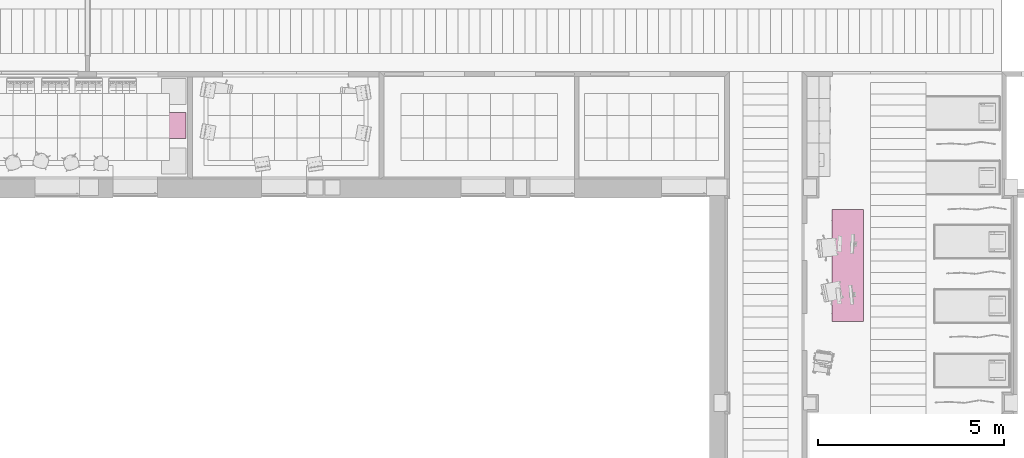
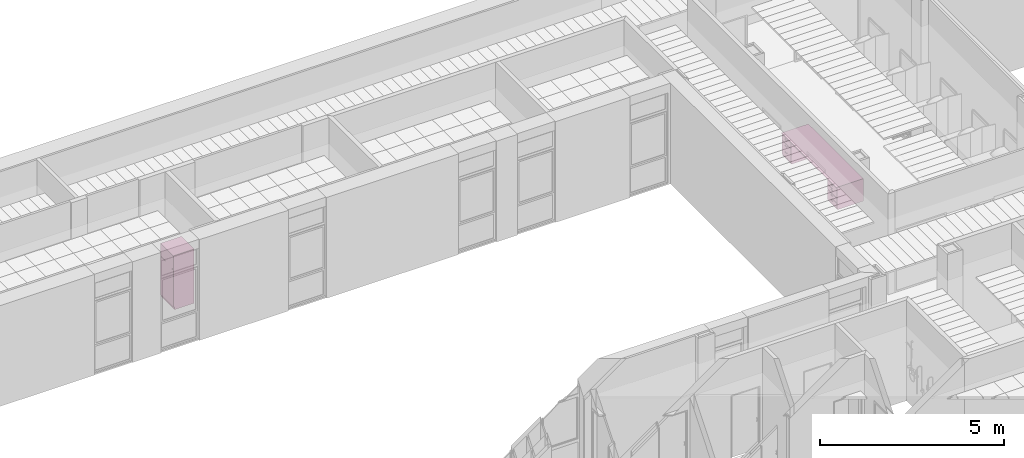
# One storey, part 65 of 68: 2 furnishings.
"""IFC2X3 building model written with IfcOpenShell, lengths in millimetres."""

from ifc_helpers import new_model, entity, si_unit, converted_unit, derived_unit, money_unit, direction, frame, origin_with_axes, place, context, subcontext, project, spatial, open_shell, faceted_brep, surface_model, type_object, element, save


model = new_model("IFC2X3")

# Units and contexts
model_context = context("Model", 3, precision=0.01, world=origin_with_axes(), true_north=direction((0.0, 1.0)))
body_context = subcontext(model_context, "Body", "Model", "MODEL_VIEW")
ifc_project = project(units=[si_unit("LENGTHUNIT", "METRE", prefix="MILLI"), si_unit("AREAUNIT", "SQUARE_METRE"), si_unit("VOLUMEUNIT", "CUBIC_METRE"), converted_unit("PLANEANGLEUNIT", "DEGREE", entity("IfcPlaneAngleMeasure", 0.0174532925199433), si_unit("PLANEANGLEUNIT", "RADIAN"), dimensions=[0, 0, 0, 0, 0, 0, 0]), money_unit("USD"), converted_unit("TIMEUNIT", "Year", entity("IfcTimeMeasure", 31557600.0), si_unit("TIMEUNIT", "SECOND"), dimensions=[0, 0, 1, 0, 0, 0, 0]), si_unit("MASSUNIT", "GRAM", prefix="KILO"), si_unit("THERMODYNAMICTEMPERATUREUNIT", "DEGREE_CELSIUS"), si_unit("LUMINOUSINTENSITYUNIT", "LUMEN"), si_unit("ENERGYUNIT", "JOULE", prefix="MEGA"), derived_unit("THERMALCONDUCTANCEUNIT", [(si_unit("POWERUNIT", "WATT"), 1), (si_unit("LENGTHUNIT", "METRE"), -1), (si_unit("THERMODYNAMICTEMPERATUREUNIT", "KELVIN"), -1)]), derived_unit("SPECIFICHEATCAPACITYUNIT", [(si_unit("ENERGYUNIT", "JOULE"), 1), (si_unit("MASSUNIT", "GRAM", prefix="KILO"), -1), (si_unit("THERMODYNAMICTEMPERATUREUNIT", "KELVIN"), -1)]), derived_unit("MASSDENSITYUNIT", [(si_unit("MASSUNIT", "GRAM", prefix="KILO"), 1), (si_unit("VOLUMEUNIT", "CUBIC_METRE"), -1)])], contexts=[model_context])

# Site, building, storey
site_placement = place(None, origin_with_axes())
site = spatial("IfcSite", under=ifc_project, at=site_placement, Name="Sitio", CompositionType="ELEMENT")
building_placement = place(site_placement, origin_with_axes())
building = spatial("IfcBuilding", under=site, at=building_placement, Name="Construcción", CompositionType="ELEMENT")
storey_placement = place(building_placement, origin_with_axes())
storey = spatial("IfcBuildingStorey", under=building, at=storey_placement, Name="PLANTA 1ª", CompositionType="ELEMENT", Elevation=0.0)

# Furnishings
furnishing_element_type_1 = type_object("IfcFurnishingElementType", Name="Mesa Oficina Rect 27")
furnishing_1_placement = place(storey_placement, frame((2040.743527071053, -2014.850095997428, 0.0), z_axis=(0.0, 0.0, 1.0), x_axis=(0.0, 1.0, 0.0)))
element("IfcFurnishingElement", 1, at=furnishing_1_placement, inside=storey, type_object=furnishing_element_type_1, Name="60.20.51 Armari", context=body_context, shape_type="Brep", body=[
    faceted_brep([(0.0, 0.0, 725.0), (0.0, 0.0, 750.0), (-3000.0, 0.0, 750.0), (-3000.0, 0.0, 725.0), (0.0, 850.0, 725.0), (0.0, 850.0, 750.0), (-3000.0, 850.0, 750.0), (-3000.0, 850.0, 725.0)], [[[0, 1, 2, 3]], [[4, 5, 1, 0]], [[1, 5, 6, 2]], [[3, 2, 6, 7]], [[0, 3, 7, 4]], [[7, 6, 5, 4]]]),
    faceted_brep([(-500.0, 80.0, 125.0), (-500.0, 80.0, 725.0), (-2500.0, 80.0, 725.0), (-2500.0, 80.0, 125.0), (-500.0, 100.0, 125.0), (-500.0, 100.0, 725.0), (-2500.0, 100.0, 725.0), (-2500.0, 100.0, 125.0)], [[[0, 1, 2, 3]], [[4, 5, 1, 0]], [[1, 5, 6, 2]], [[3, 2, 6, 7]], [[0, 3, 7, 4]], [[7, 6, 5, 4]]]),
    faceted_brep([(-2500.0, 815.0000000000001, 50.0), (-2500.0, 0.0, 50.0), (-3000.0, 0.0, 50.0), (-3000.0, 815.0, 50.0), (-2500.0, 815.0000000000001, 725.0), (-2500.0, 0.0, 725.0), (-3000.0, 0.0, 725.0), (-3000.0, 815.0, 725.0)], [[[0, 1, 2, 3]], [[0, 4, 5, 1]], [[1, 5, 6, 2]], [[2, 6, 7, 3]], [[3, 7, 4, 0]], [[7, 6, 5, 4]]]),
    faceted_brep([(-2500.0, 815.0000000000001, 0.0), (-2500.0, 0.0, 0.0), (-3000.0, 0.0, 0.0), (-3000.0, 815.0, 0.0), (-2500.0, 815.0000000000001, 50.0), (-2500.0, 0.0, 50.0), (-3000.0, 0.0, 50.0), (-3000.0, 815.0, 50.0)], [[[0, 1, 2, 3]], [[0, 4, 5, 1]], [[1, 5, 6, 2]], [[2, 6, 7, 3]], [[3, 7, 4, 0]], [[7, 6, 5, 4]]]),
    faceted_brep([(-3000.0, 835.0, 556.25), (-3000.0, 835.0, 720.0), (-2500.0, 835.0000000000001, 720.0), (-2500.0, 835.0000000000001, 556.25), (-3000.0, 815.0, 556.25), (-3000.0, 815.0, 720.0), (-2500.0, 815.0000000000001, 720.0), (-2500.0, 815.0000000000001, 556.25)], [[[0, 1, 2, 3]], [[4, 5, 1, 0]], [[1, 5, 6, 2]], [[3, 2, 6, 7]], [[0, 3, 7, 4]], [[7, 6, 5, 4]]]),
    faceted_brep([(-2785.0, 853.0, 673.0625), (-2785.0, 853.0, 685.0625), (-2790.656854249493, 850.6568542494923, 685.0625), (-2790.656854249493, 850.6568542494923, 673.0625), (-2715.0, 853.0, 673.0625), (-2715.0, 853.0, 685.0625), (-2709.343145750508, 850.6568542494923, 685.0625), (-2707.0, 845.0, 685.0625), (-2707.0, 835.0, 685.0625), (-2700.0, 835.0, 685.0625), (-2700.0, 845.0, 685.0625), (-2704.393398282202, 855.6066017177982, 685.0625), (-2715.0, 860.0, 685.0625), (-2785.0, 860.0, 685.0625), (-2795.606601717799, 855.6066017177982, 685.0625), (-2800.0, 845.0, 685.0625), (-2800.0, 835.0, 685.0625), (-2793.0, 835.0, 685.0625), (-2793.0, 845.0, 685.0625), (-2793.0, 845.0, 673.0625), (-2793.0, 835.0, 673.0625), (-2800.0, 835.0, 673.0625), (-2800.0, 845.0, 673.0625), (-2795.606601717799, 855.6066017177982, 673.0625), (-2785.0, 860.0, 673.0625), (-2715.0, 860.0, 673.0625), (-2704.393398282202, 855.6066017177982, 673.0625), (-2700.0, 845.0, 673.0625), (-2700.0, 835.0, 673.0625), (-2707.0, 835.0, 673.0625), (-2707.0, 845.0, 673.0625), (-2709.343145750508, 850.6568542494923, 673.0625)], [[[0, 1, 2, 3]], [[4, 5, 1, 0]], [[1, 5, 6, 7, 8, 9, 10, 11, 12, 13, 14, 15, 16, 17, 18, 2]], [[3, 2, 18, 19]], [[0, 3, 19, 20, 21, 22, 23, 24, 25, 26, 27, 28, 29, 30, 31, 4]], [[31, 6, 5, 4]], [[30, 7, 6, 31]], [[29, 8, 7, 30]], [[28, 9, 8, 29]], [[27, 10, 9, 28]], [[26, 11, 10, 27]], [[25, 12, 11, 26]], [[24, 13, 12, 25]], [[23, 14, 13, 24]], [[22, 15, 14, 23]], [[21, 16, 15, 22]], [[20, 17, 16, 21]], [[19, 18, 17, 20]]]),
    faceted_brep([(-3000.0, 835.0, 387.5000000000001), (-3000.0, 835.0, 551.25), (-2500.0, 835.0000000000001, 551.25), (-2500.0, 835.0000000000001, 387.5000000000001), (-3000.0, 815.0, 387.5000000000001), (-3000.0, 815.0, 551.25), (-2500.0, 815.0000000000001, 551.25), (-2500.0, 815.0000000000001, 387.5000000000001)], [[[0, 1, 2, 3]], [[4, 5, 1, 0]], [[1, 5, 6, 2]], [[3, 2, 6, 7]], [[0, 3, 7, 4]], [[7, 6, 5, 4]]]),
    faceted_brep([(-2785.0, 853.0, 504.3125000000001), (-2785.0, 853.0, 516.3125000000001), (-2790.656854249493, 850.6568542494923, 516.3125000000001), (-2790.656854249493, 850.6568542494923, 504.3125000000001), (-2715.0, 853.0, 504.3125000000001), (-2715.0, 853.0, 516.3125000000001), (-2709.343145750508, 850.6568542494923, 516.3125000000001), (-2707.0, 845.0, 516.3125000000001), (-2707.0, 835.0, 516.3125000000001), (-2700.0, 835.0, 516.3125000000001), (-2700.0, 845.0, 516.3125000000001), (-2704.393398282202, 855.6066017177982, 516.3125000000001), (-2715.0, 860.0, 516.3125000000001), (-2785.0, 860.0, 516.3125000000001), (-2795.606601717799, 855.6066017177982, 516.3125000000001), (-2800.0, 845.0, 516.3125000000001), (-2800.0, 835.0, 516.3125000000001), (-2793.0, 835.0, 516.3125000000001), (-2793.0, 845.0, 516.3125000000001), (-2793.0, 845.0, 504.3125000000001), (-2793.0, 835.0, 504.3125000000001), (-2800.0, 835.0, 504.3125000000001), (-2800.0, 845.0, 504.3125000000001), (-2795.606601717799, 855.6066017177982, 504.3125000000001), (-2785.0, 860.0, 504.3125000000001), (-2715.0, 860.0, 504.3125000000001), (-2704.393398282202, 855.6066017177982, 504.3125000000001), (-2700.0, 845.0, 504.3125000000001), (-2700.0, 835.0, 504.3125000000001), (-2707.0, 835.0, 504.3125000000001), (-2707.0, 845.0, 504.3125000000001), (-2709.343145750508, 850.6568542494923, 504.3125000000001)], [[[0, 1, 2, 3]], [[4, 5, 1, 0]], [[1, 5, 6, 7, 8, 9, 10, 11, 12, 13, 14, 15, 16, 17, 18, 2]], [[3, 2, 18, 19]], [[0, 3, 19, 20, 21, 22, 23, 24, 25, 26, 27, 28, 29, 30, 31, 4]], [[31, 6, 5, 4]], [[30, 7, 6, 31]], [[29, 8, 7, 30]], [[28, 9, 8, 29]], [[27, 10, 9, 28]], [[26, 11, 10, 27]], [[25, 12, 11, 26]], [[24, 13, 12, 25]], [[23, 14, 13, 24]], [[22, 15, 14, 23]], [[21, 16, 15, 22]], [[20, 17, 16, 21]], [[19, 18, 17, 20]]]),
    faceted_brep([(-3000.0, 835.0, 218.75), (-3000.0, 835.0, 382.5), (-2500.0, 835.0000000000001, 382.5), (-2500.0, 835.0000000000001, 218.75), (-3000.0, 815.0, 218.75), (-3000.0, 815.0, 382.5), (-2500.0, 815.0000000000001, 382.5), (-2500.0, 815.0000000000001, 218.75)], [[[0, 1, 2, 3]], [[4, 5, 1, 0]], [[1, 5, 6, 2]], [[3, 2, 6, 7]], [[0, 3, 7, 4]], [[7, 6, 5, 4]]]),
    faceted_brep([(-2785.0, 853.0, 335.5625), (-2785.0, 853.0, 347.5625), (-2790.656854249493, 850.6568542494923, 347.5625), (-2790.656854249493, 850.6568542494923, 335.5625), (-2715.0, 853.0, 335.5625), (-2715.0, 853.0, 347.5625), (-2709.343145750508, 850.6568542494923, 347.5625), (-2707.0, 845.0, 347.5625), (-2707.0, 835.0, 347.5625), (-2700.0, 835.0, 347.5625), (-2700.0, 845.0, 347.5625), (-2704.393398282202, 855.6066017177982, 347.5625), (-2715.0, 860.0, 347.5625), (-2785.0, 860.0, 347.5625), (-2795.606601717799, 855.6066017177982, 347.5625), (-2800.0, 845.0, 347.5625), (-2800.0, 835.0, 347.5625), (-2793.0, 835.0, 347.5625), (-2793.0, 845.0, 347.5625), (-2793.0, 845.0, 335.5625), (-2793.0, 835.0, 335.5625), (-2800.0, 835.0, 335.5625), (-2800.0, 845.0, 335.5625), (-2795.606601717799, 855.6066017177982, 335.5625), (-2785.0, 860.0, 335.5625), (-2715.0, 860.0, 335.5625), (-2704.393398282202, 855.6066017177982, 335.5625), (-2700.0, 845.0, 335.5625), (-2700.0, 835.0, 335.5625), (-2707.0, 835.0, 335.5625), (-2707.0, 845.0, 335.5625), (-2709.343145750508, 850.6568542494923, 335.5625)], [[[0, 1, 2, 3]], [[4, 5, 1, 0]], [[1, 5, 6, 7, 8, 9, 10, 11, 12, 13, 14, 15, 16, 17, 18, 2]], [[3, 2, 18, 19]], [[0, 3, 19, 20, 21, 22, 23, 24, 25, 26, 27, 28, 29, 30, 31, 4]], [[31, 6, 5, 4]], [[30, 7, 6, 31]], [[29, 8, 7, 30]], [[28, 9, 8, 29]], [[27, 10, 9, 28]], [[26, 11, 10, 27]], [[25, 12, 11, 26]], [[24, 13, 12, 25]], [[23, 14, 13, 24]], [[22, 15, 14, 23]], [[21, 16, 15, 22]], [[20, 17, 16, 21]], [[19, 18, 17, 20]]]),
    faceted_brep([(-3000.0, 835.0, 50.00000000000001), (-3000.0, 835.0, 213.75), (-2500.0, 835.0000000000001, 213.75), (-2500.0, 835.0000000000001, 50.00000000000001), (-3000.0, 815.0, 50.00000000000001), (-3000.0, 815.0, 213.75), (-2500.0, 815.0000000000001, 213.75), (-2500.0, 815.0000000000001, 50.00000000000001)], [[[0, 1, 2, 3]], [[4, 5, 1, 0]], [[1, 5, 6, 2]], [[3, 2, 6, 7]], [[0, 3, 7, 4]], [[7, 6, 5, 4]]]),
    faceted_brep([(-2785.0, 853.0, 166.8125), (-2785.0, 853.0, 178.8125), (-2790.656854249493, 850.6568542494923, 178.8125), (-2790.656854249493, 850.6568542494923, 166.8125), (-2715.0, 853.0, 166.8125), (-2715.0, 853.0, 178.8125), (-2709.343145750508, 850.6568542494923, 178.8125), (-2707.0, 845.0, 178.8125), (-2707.0, 835.0, 178.8125), (-2700.0, 835.0, 178.8125), (-2700.0, 845.0, 178.8125), (-2704.393398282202, 855.6066017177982, 178.8125), (-2715.0, 860.0, 178.8125), (-2785.0, 860.0, 178.8125), (-2795.606601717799, 855.6066017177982, 178.8125), (-2800.0, 845.0, 178.8125), (-2800.0, 835.0, 178.8125), (-2793.0, 835.0, 178.8125), (-2793.0, 845.0, 178.8125), (-2793.0, 845.0, 166.8125), (-2793.0, 835.0, 166.8125), (-2800.0, 835.0, 166.8125), (-2800.0, 845.0, 166.8125), (-2795.606601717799, 855.6066017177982, 166.8125), (-2785.0, 860.0, 166.8125), (-2715.0, 860.0, 166.8125), (-2704.393398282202, 855.6066017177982, 166.8125), (-2700.0, 845.0, 166.8125), (-2700.0, 835.0, 166.8125), (-2707.0, 835.0, 166.8125), (-2707.0, 845.0, 166.8125), (-2709.343145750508, 850.6568542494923, 166.8125)], [[[0, 1, 2, 3]], [[4, 5, 1, 0]], [[1, 5, 6, 7, 8, 9, 10, 11, 12, 13, 14, 15, 16, 17, 18, 2]], [[3, 2, 18, 19]], [[0, 3, 19, 20, 21, 22, 23, 24, 25, 26, 27, 28, 29, 30, 31, 4]], [[31, 6, 5, 4]], [[30, 7, 6, 31]], [[29, 8, 7, 30]], [[28, 9, 8, 29]], [[27, 10, 9, 28]], [[26, 11, 10, 27]], [[25, 12, 11, 26]], [[24, 13, 12, 25]], [[23, 14, 13, 24]], [[22, 15, 14, 23]], [[21, 16, 15, 22]], [[20, 17, 16, 21]], [[19, 18, 17, 20]]]),
    faceted_brep([(0.0, 815.0000000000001, 50.0), (0.0, 0.0, 50.0), (-499.9999999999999, 0.0, 50.0), (-500.0, 815.0, 50.0), (0.0, 815.0000000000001, 725.0), (0.0, 0.0, 725.0), (-499.9999999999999, 0.0, 725.0), (-500.0, 815.0, 725.0)], [[[0, 1, 2, 3]], [[0, 4, 5, 1]], [[1, 5, 6, 2]], [[2, 6, 7, 3]], [[3, 7, 4, 0]], [[7, 6, 5, 4]]]),
    faceted_brep([(0.0, 815.0000000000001, 0.0), (0.0, 0.0, 0.0), (-499.9999999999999, 0.0, 0.0), (-500.0, 815.0, 0.0), (0.0, 815.0000000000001, 50.0), (0.0, 0.0, 50.0), (-499.9999999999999, 0.0, 50.0), (-500.0, 815.0, 50.0)], [[[0, 1, 2, 3]], [[0, 4, 5, 1]], [[1, 5, 6, 2]], [[2, 6, 7, 3]], [[3, 7, 4, 0]], [[7, 6, 5, 4]]]),
    faceted_brep([(-500.0, 835.0, 513.3333333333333), (-500.0, 835.0, 720.0), (0.0, 835.0000000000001, 720.0), (0.0, 835.0000000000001, 513.3333333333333), (-500.0, 815.0, 513.3333333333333), (-500.0, 815.0, 720.0), (0.0, 815.0000000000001, 720.0), (0.0, 815.0000000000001, 513.3333333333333)], [[[0, 1, 2, 3]], [[4, 5, 1, 0]], [[1, 5, 6, 2]], [[3, 2, 6, 7]], [[0, 3, 7, 4]], [[7, 6, 5, 4]]]),
    faceted_brep([(-285.0000000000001, 853.0, 662.3333333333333), (-285.0000000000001, 853.0, 674.3333333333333), (-290.6568542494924, 850.6568542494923, 674.3333333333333), (-290.6568542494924, 850.6568542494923, 662.3333333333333), (-215.0, 853.0, 662.3333333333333), (-215.0, 853.0, 674.3333333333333), (-209.3431457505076, 850.6568542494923, 674.3333333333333), (-207.0, 845.0, 674.3333333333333), (-207.0, 835.0, 674.3333333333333), (-200.0, 835.0, 674.3333333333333), (-200.0, 845.0, 674.3333333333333), (-204.3933982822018, 855.6066017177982, 674.3333333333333), (-215.0, 860.0, 674.3333333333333), (-285.0000000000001, 860.0, 674.3333333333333), (-295.6066017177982, 855.6066017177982, 674.3333333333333), (-300.0000000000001, 845.0, 674.3333333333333), (-300.0000000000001, 835.0, 674.3333333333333), (-293.0000000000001, 835.0, 674.3333333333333), (-293.0000000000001, 845.0, 674.3333333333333), (-293.0000000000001, 845.0, 662.3333333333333), (-293.0000000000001, 835.0, 662.3333333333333), (-300.0000000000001, 835.0, 662.3333333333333), (-300.0000000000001, 845.0, 662.3333333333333), (-295.6066017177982, 855.6066017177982, 662.3333333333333), (-285.0000000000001, 860.0, 662.3333333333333), (-215.0, 860.0, 662.3333333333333), (-204.3933982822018, 855.6066017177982, 662.3333333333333), (-200.0, 845.0, 662.3333333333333), (-200.0, 835.0, 662.3333333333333), (-207.0, 835.0, 662.3333333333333), (-207.0, 845.0, 662.3333333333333), (-209.3431457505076, 850.6568542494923, 662.3333333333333)], [[[0, 1, 2, 3]], [[4, 5, 1, 0]], [[1, 5, 6, 7, 8, 9, 10, 11, 12, 13, 14, 15, 16, 17, 18, 2]], [[3, 2, 18, 19]], [[0, 3, 19, 20, 21, 22, 23, 24, 25, 26, 27, 28, 29, 30, 31, 4]], [[31, 6, 5, 4]], [[30, 7, 6, 31]], [[29, 8, 7, 30]], [[28, 9, 8, 29]], [[27, 10, 9, 28]], [[26, 11, 10, 27]], [[25, 12, 11, 26]], [[24, 13, 12, 25]], [[23, 14, 13, 24]], [[22, 15, 14, 23]], [[21, 16, 15, 22]], [[20, 17, 16, 21]], [[19, 18, 17, 20]]]),
    faceted_brep([(-500.0, 835.0, 301.6666666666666), (-500.0, 835.0, 508.3333333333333), (0.0, 835.0000000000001, 508.3333333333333), (0.0, 835.0000000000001, 301.6666666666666), (-500.0, 815.0, 301.6666666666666), (-500.0, 815.0, 508.3333333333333), (0.0, 815.0000000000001, 508.3333333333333), (0.0, 815.0000000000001, 301.6666666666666)], [[[0, 1, 2, 3]], [[4, 5, 1, 0]], [[1, 5, 6, 2]], [[3, 2, 6, 7]], [[0, 3, 7, 4]], [[7, 6, 5, 4]]]),
    faceted_brep([(-285.0000000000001, 853.0, 450.6666666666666), (-285.0000000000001, 853.0, 462.6666666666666), (-290.6568542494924, 850.6568542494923, 462.6666666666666), (-290.6568542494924, 850.6568542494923, 450.6666666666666), (-215.0, 853.0, 450.6666666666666), (-215.0, 853.0, 462.6666666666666), (-209.3431457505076, 850.6568542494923, 462.6666666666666), (-207.0, 845.0, 462.6666666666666), (-207.0, 835.0, 462.6666666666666), (-200.0, 835.0, 462.6666666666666), (-200.0, 845.0, 462.6666666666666), (-204.3933982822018, 855.6066017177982, 462.6666666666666), (-215.0, 860.0, 462.6666666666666), (-285.0000000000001, 860.0, 462.6666666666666), (-295.6066017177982, 855.6066017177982, 462.6666666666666), (-300.0000000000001, 845.0, 462.6666666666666), (-300.0000000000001, 835.0, 462.6666666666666), (-293.0000000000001, 835.0, 462.6666666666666), (-293.0000000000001, 845.0, 462.6666666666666), (-293.0000000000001, 845.0, 450.6666666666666), (-293.0000000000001, 835.0, 450.6666666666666), (-300.0000000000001, 835.0, 450.6666666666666), (-300.0000000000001, 845.0, 450.6666666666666), (-295.6066017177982, 855.6066017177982, 450.6666666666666), (-285.0000000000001, 860.0, 450.6666666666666), (-215.0, 860.0, 450.6666666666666), (-204.3933982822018, 855.6066017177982, 450.6666666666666), (-200.0, 845.0, 450.6666666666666), (-200.0, 835.0, 450.6666666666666), (-207.0, 835.0, 450.6666666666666), (-207.0, 845.0, 450.6666666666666), (-209.3431457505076, 850.6568542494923, 450.6666666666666)], [[[0, 1, 2, 3]], [[4, 5, 1, 0]], [[1, 5, 6, 7, 8, 9, 10, 11, 12, 13, 14, 15, 16, 17, 18, 2]], [[3, 2, 18, 19]], [[0, 3, 19, 20, 21, 22, 23, 24, 25, 26, 27, 28, 29, 30, 31, 4]], [[31, 6, 5, 4]], [[30, 7, 6, 31]], [[29, 8, 7, 30]], [[28, 9, 8, 29]], [[27, 10, 9, 28]], [[26, 11, 10, 27]], [[25, 12, 11, 26]], [[24, 13, 12, 25]], [[23, 14, 13, 24]], [[22, 15, 14, 23]], [[21, 16, 15, 22]], [[20, 17, 16, 21]], [[19, 18, 17, 20]]]),
    faceted_brep([(-500.0, 835.0, 90.00000000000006), (-500.0, 835.0, 296.6666666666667), (0.0, 835.0000000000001, 296.6666666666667), (0.0, 835.0000000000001, 90.00000000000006), (-500.0, 815.0, 90.00000000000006), (-500.0, 815.0, 296.6666666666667), (0.0, 815.0000000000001, 296.6666666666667), (0.0, 815.0000000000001, 90.00000000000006)], [[[0, 1, 2, 3]], [[4, 5, 1, 0]], [[1, 5, 6, 2]], [[3, 2, 6, 7]], [[0, 3, 7, 4]], [[7, 6, 5, 4]]]),
    faceted_brep([(-285.0000000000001, 853.0, 239.0), (-285.0000000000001, 853.0, 251.0), (-290.6568542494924, 850.6568542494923, 251.0), (-290.6568542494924, 850.6568542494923, 239.0), (-215.0, 853.0, 239.0), (-215.0, 853.0, 251.0), (-209.3431457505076, 850.6568542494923, 251.0), (-207.0, 845.0, 251.0), (-207.0, 835.0, 251.0), (-200.0, 835.0, 251.0), (-200.0, 845.0, 251.0), (-204.3933982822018, 855.6066017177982, 251.0), (-215.0, 860.0, 251.0), (-285.0000000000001, 860.0, 251.0), (-295.6066017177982, 855.6066017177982, 251.0), (-300.0000000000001, 845.0, 251.0), (-300.0000000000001, 835.0, 251.0), (-293.0000000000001, 835.0, 251.0), (-293.0000000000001, 845.0, 251.0), (-293.0000000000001, 845.0, 239.0), (-293.0000000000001, 835.0, 239.0), (-300.0000000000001, 835.0, 239.0), (-300.0000000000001, 845.0, 239.0), (-295.6066017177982, 855.6066017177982, 239.0), (-285.0000000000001, 860.0, 239.0), (-215.0, 860.0, 239.0), (-204.3933982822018, 855.6066017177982, 239.0), (-200.0, 845.0, 239.0), (-200.0, 835.0, 239.0), (-207.0, 835.0, 239.0), (-207.0, 845.0, 239.0), (-209.3431457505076, 850.6568542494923, 239.0)], [[[0, 1, 2, 3]], [[4, 5, 1, 0]], [[1, 5, 6, 7, 8, 9, 10, 11, 12, 13, 14, 15, 16, 17, 18, 2]], [[3, 2, 18, 19]], [[0, 3, 19, 20, 21, 22, 23, 24, 25, 26, 27, 28, 29, 30, 31, 4]], [[31, 6, 5, 4]], [[30, 7, 6, 31]], [[29, 8, 7, 30]], [[28, 9, 8, 29]], [[27, 10, 9, 28]], [[26, 11, 10, 27]], [[25, 12, 11, 26]], [[24, 13, 12, 25]], [[23, 14, 13, 24]], [[22, 15, 14, 23]], [[21, 16, 15, 22]], [[20, 17, 16, 21]], [[19, 18, 17, 20]]]),
    faceted_brep([(-500.0, 835.0, 50.00000000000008), (-500.0, 835.0, 85.00000000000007), (0.0, 835.0000000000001, 85.00000000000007), (0.0, 835.0000000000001, 50.00000000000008), (-500.0, 815.0, 50.00000000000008), (-500.0, 815.0, 85.00000000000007), (0.0, 815.0000000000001, 85.00000000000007), (0.0, 815.0000000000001, 50.00000000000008)], [[[0, 1, 2, 3]], [[4, 5, 1, 0]], [[1, 5, 6, 2]], [[3, 2, 6, 7]], [[0, 3, 7, 4]], [[7, 6, 5, 4]]]),
    faceted_brep([(-285.0000000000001, 853.0, 64.00000000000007), (-285.0000000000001, 853.0, 76.00000000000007), (-290.6568542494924, 850.6568542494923, 76.00000000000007), (-290.6568542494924, 850.6568542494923, 64.00000000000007), (-215.0, 853.0, 64.00000000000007), (-215.0, 853.0, 76.00000000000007), (-209.3431457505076, 850.6568542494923, 76.00000000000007), (-207.0, 845.0, 76.00000000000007), (-207.0, 835.0, 76.00000000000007), (-200.0, 835.0, 76.00000000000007), (-200.0, 845.0, 76.00000000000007), (-204.3933982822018, 855.6066017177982, 76.00000000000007), (-215.0, 860.0, 76.00000000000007), (-285.0000000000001, 860.0, 76.00000000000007), (-295.6066017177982, 855.6066017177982, 76.00000000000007), (-300.0000000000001, 845.0, 76.00000000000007), (-300.0000000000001, 835.0, 76.00000000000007), (-293.0000000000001, 835.0, 76.00000000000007), (-293.0000000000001, 845.0, 76.00000000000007), (-293.0000000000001, 845.0, 64.00000000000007), (-293.0000000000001, 835.0, 64.00000000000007), (-300.0000000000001, 835.0, 64.00000000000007), (-300.0000000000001, 845.0, 64.00000000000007), (-295.6066017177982, 855.6066017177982, 64.00000000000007), (-285.0000000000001, 860.0, 64.00000000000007), (-215.0, 860.0, 64.00000000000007), (-204.3933982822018, 855.6066017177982, 64.00000000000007), (-200.0, 845.0, 64.00000000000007), (-200.0, 835.0, 64.00000000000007), (-207.0, 835.0, 64.00000000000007), (-207.0, 845.0, 64.00000000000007), (-209.3431457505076, 850.6568542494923, 64.00000000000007)], [[[0, 1, 2, 3]], [[4, 5, 1, 0]], [[1, 5, 6, 7, 8, 9, 10, 11, 12, 13, 14, 15, 16, 17, 18, 2]], [[3, 2, 18, 19]], [[0, 3, 19, 20, 21, 22, 23, 24, 25, 26, 27, 28, 29, 30, 31, 4]], [[31, 6, 5, 4]], [[30, 7, 6, 31]], [[29, 8, 7, 30]], [[28, 9, 8, 29]], [[27, 10, 9, 28]], [[26, 11, 10, 27]], [[25, 12, 11, 26]], [[24, 13, 12, 25]], [[23, 14, 13, 24]], [[22, 15, 14, 23]], [[21, 16, 15, 22]], [[20, 17, 16, 21]], [[19, 18, 17, 20]]]),
])
furnishing_element_type_2 = type_object("IfcFurnishingElementType", Name="Nevera 27")
furnishing_2_placement = place(storey_placement, frame((-16824.2555893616, 604.1692408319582, 0.0), z_axis=(0.0, 0.0, 1.0), x_axis=(0.0, -1.0, 0.0)))
element("IfcFurnishingElement", 2, at=furnishing_2_placement, inside=storey, type_object=furnishing_element_type_2, Name="60.20.53 Armari", context=body_context, shape_type="SurfaceModel", body=[
    faceted_brep([(0.0, 0.0, 1775.0), (698.9515664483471, 0.0, 1775.0), (698.9515664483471, 0.0, 1800.0), (0.0, 0.0, 1800.0), (0.0, 654.832835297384, 1775.0), (698.9515664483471, 654.832835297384, 1775.0), (698.9515664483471, 654.832835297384, 1800.0), (0.0, 654.832835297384, 1800.0)], [[[0, 1, 2, 3]], [[0, 4, 5, 1]], [[1, 5, 6, 2]], [[3, 2, 6, 7]], [[4, 0, 3, 7]], [[5, 4, 7, 6]]]),
    faceted_brep([(0.0, 65.0, 0.0), (698.9515664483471, 65.0, 0.0), (698.9515664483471, 65.0, 1775.0), (0.0, 65.0, 1775.0), (0.0, 654.832835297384, 0.0), (698.9515664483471, 654.832835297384, 0.0), (698.9515664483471, 654.832835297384, 1775.0), (0.0, 654.832835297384, 1775.0)], [[[0, 1, 2, 3]], [[0, 4, 5, 1]], [[1, 5, 6, 2]], [[3, 2, 6, 7]], [[4, 0, 3, 7]], [[5, 4, 7, 6]]]),
    faceted_brep([(0.0, 30.0, 0.0), (698.9515664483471, 30.0, 0.0), (698.9515664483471, 30.0, 90.0), (0.0, 30.0, 90.0), (0.0, 60.0, 0.0), (698.9515664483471, 60.0, 0.0), (698.9515664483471, 60.0, 90.0), (0.0, 60.0, 90.0)], [[[0, 1, 2, 3]], [[0, 4, 5, 1]], [[1, 5, 6, 2]], [[3, 2, 6, 7]], [[4, 0, 3, 7]], [[5, 4, 7, 6]]]),
    faceted_brep([(0.0, 60.0, 90.0), (698.9515664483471, 60.0, 90.0), (698.9515664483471, 0.0, 90.0), (0.0, 0.0, 90.0), (0.0, 60.00000000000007, 1369.5), (698.9515664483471, 60.00000000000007, 1369.5), (698.9515664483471, 0.0, 1369.5), (0.0, 0.0, 1369.5)], [[[0, 1, 2, 3]], [[0, 4, 5, 1]], [[1, 5, 6, 2]], [[3, 2, 6, 7]], [[4, 0, 3, 7]], [[5, 4, 7, 6]]]),
    faceted_brep([(0.0, 60.0, 1374.5), (698.9515664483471, 60.0, 1374.5), (698.9515664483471, 0.0, 1374.5), (0.0, 0.0, 1374.5), (0.0, 60.00000000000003, 1774.5), (698.9515664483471, 60.00000000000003, 1774.5), (698.9515664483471, 0.0, 1774.5), (0.0, 0.0, 1774.5)], [[[0, 1, 2, 3]], [[0, 4, 5, 1]], [[1, 5, 6, 2]], [[3, 2, 6, 7]], [[4, 0, 3, 7]], [[5, 4, 7, 6]]]),
    surface_model("IfcShellBasedSurfaceModel", [(698.9515664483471, -30.0, 1359.5), (698.9515664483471, -30.0, 1369.5), (698.9515664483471, 0.0, 1369.5), (698.9515664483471, 0.0, 1359.5)], [open_shell([[[0, 1, 2, 3]]])]),
    surface_model("IfcShellBasedSurfaceModel", [(698.9515664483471, -30.0, 1359.5), (698.9515664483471, -30.0, 1369.5), (668.9515664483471, -30.0, 1369.5), (668.9515664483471, -30.0, 1359.5)], [open_shell([[[0, 1, 2, 3]]])]),
    surface_model("IfcShellBasedSurfaceModel", [(698.9515664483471, -30.0, 1374.5), (698.9515664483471, -30.0, 1384.5), (698.9515664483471, 0.0, 1384.5), (698.9515664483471, 0.0, 1374.5)], [open_shell([[[0, 1, 2, 3]]])]),
    surface_model("IfcShellBasedSurfaceModel", [(698.9515664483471, -30.0, 1374.5), (698.9515664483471, -30.0, 1384.5), (668.9515664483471, -30.0, 1384.5), (668.9515664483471, -30.0, 1374.5)], [open_shell([[[0, 1, 2, 3]]])]),
])

save(model, "model.ifc")
